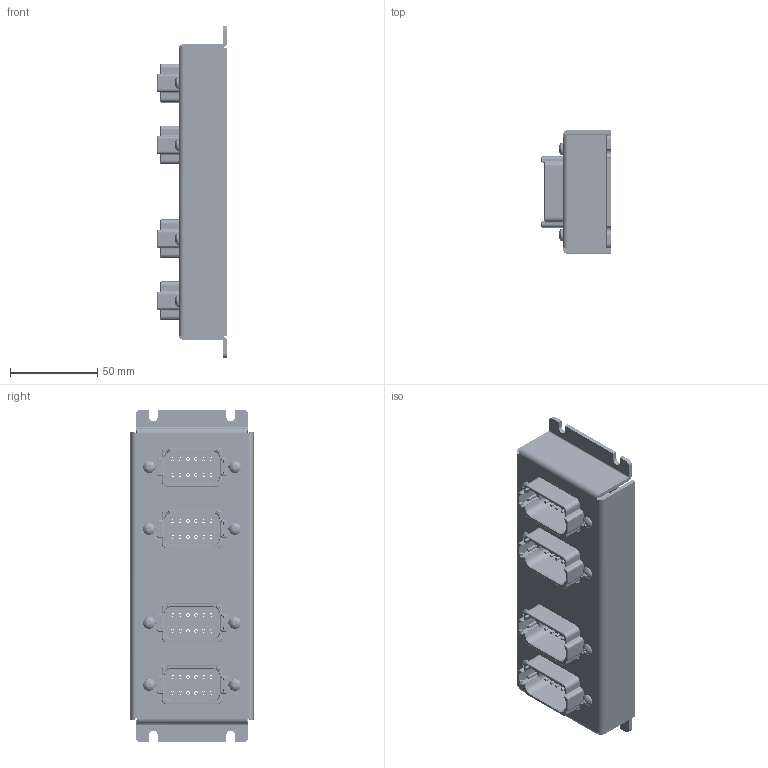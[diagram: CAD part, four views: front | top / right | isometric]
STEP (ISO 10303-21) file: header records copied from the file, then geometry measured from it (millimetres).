
FILE_DESCRIPTION (( 'STEP AP214' ), '1' );
FILE_NAME ('Console Top Power System.STEP', '2017-03-15T16:10:07', ( '' ), ( '' ), 'SwSTEP 2.0', 'SolidWorks 2014', '' );
FILE_SCHEMA (( 'AUTOMOTIVE_DESIGN' ));
Length unit declared in the file: millimetre
Products named in the file (4): 96001A264_18-8 SS TORX THREAD-FORMING SCREW FOR PLASTIC (1)_96001A264; Platform Power Sistem Top_1B0; top Platform Power Enclosure; Console Top Power System
Assembly tree (10 placements, depth 2):
  Console Top Power System
    top Platform Power Enclosure
    Platform Power Sistem Top_1B0
    96001A264_18-8 SS TORX THREAD-FORMING SCREW FOR PLASTIC (1)_96001A264  x8
Bounding box: 40.01 x 70.61 x 190.5 mm (x, y, z)
Volume: 48106.6 mm3; surface area: 105622.2 mm2
Topology: 9 solids, 602 shells, 3782 faces, 15760 edges, 12511 vertices
Faces by surface type: cylinder 1571, plane 1530, bspline 447, cone 184, torus 34, sphere 16
Entity records: 234567 total; most frequent: CARTESIAN_POINT 101967, ORIENTED_EDGE 19588, DIRECTION 17369, EDGE_CURVE 13721, VERTEX_POINT 11209, LINE 6871, VECTOR 6871, AXIS2_PLACEMENT_3D 5249
